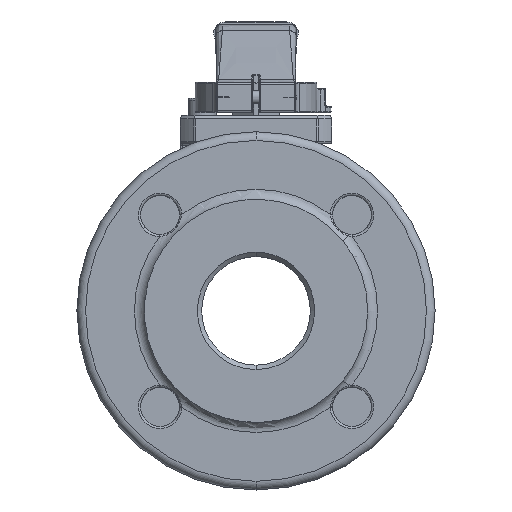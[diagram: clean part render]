
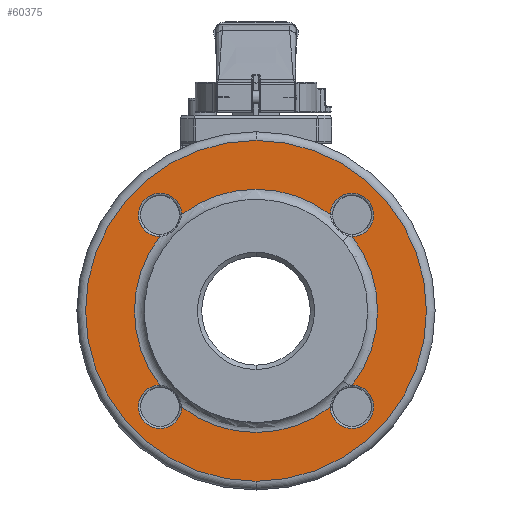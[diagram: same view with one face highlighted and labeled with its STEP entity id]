
A CAD part, left-side view. The second image highlights one B-rep face of the part: STEP entity #60375.
In plain terms, the highlighted planar face has unit normal (-1, 0, 0).
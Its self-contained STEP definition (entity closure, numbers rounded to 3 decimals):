
#647=CARTESIAN_POINT('',(-57.,0.,0.));
#648=DIRECTION('',(1.,0.,0.));
#649=DIRECTION('',(0.,-0.611,-0.792));
#650=AXIS2_PLACEMENT_3D('',#647,#648,#649);
#652=CARTESIAN_POINT('',(-57.,0.,0.));
#653=DIRECTION('',(-1.,0.,0.));
#654=DIRECTION('',(0.,0.792,0.611));
#655=AXIS2_PLACEMENT_3D('',#652,#653,#654);
#657=CARTESIAN_POINT('',(-57.,0.,0.));
#658=DIRECTION('',(1.,0.,0.));
#659=DIRECTION('',(0.,0.611,0.792));
#660=AXIS2_PLACEMENT_3D('',#657,#658,#659);
#667=CARTESIAN_POINT('',(-57.,0.,0.));
#668=DIRECTION('',(-1.,0.,0.));
#669=DIRECTION('',(0.,-0.792,-0.611));
#670=AXIS2_PLACEMENT_3D('',#667,#668,#669);
#677=CARTESIAN_POINT('',(-57.,-44.347,34.195));
#783=CARTESIAN_POINT('',(-57.,-34.195,44.347));
#797=CARTESIAN_POINT('',(-57.,-44.194,44.194));
#798=DIRECTION('',(1.,0.,0.));
#799=DIRECTION('',(0.,1.,0.015));
#800=AXIS2_PLACEMENT_3D('',#797,#798,#799);
#822=CARTESIAN_POINT('',(-57.,0.,0.));
#823=DIRECTION('',(1.,0.,0.));
#824=DIRECTION('',(0.,0.,-1.));
#825=AXIS2_PLACEMENT_3D('',#822,#823,#824);
#845=CARTESIAN_POINT('',(-57.,0.,0.));
#846=DIRECTION('',(1.,0.,0.));
#847=DIRECTION('',(0.,0.,1.));
#848=AXIS2_PLACEMENT_3D('',#845,#846,#847);
#48237=CARTESIAN_POINT('',(-57.,44.347,
34.195));
#48301=CARTESIAN_POINT('',(-57.,44.194,44.194));
#48302=DIRECTION('',(1.,0.,0.));
#48303=DIRECTION('',(0.,0.015,-1.));
#48304=AXIS2_PLACEMENT_3D('',#48301,#48302,#48303);
#48310=CARTESIAN_POINT('',(-57.,34.195,
44.347));
#48378=CARTESIAN_POINT('',(-57.,-44.194,-44.194));
#48379=DIRECTION('',(1.,0.,0.));
#48380=DIRECTION('',(0.,-0.015,1.));
#48381=AXIS2_PLACEMENT_3D('',#48378,#48379,#48380);
#48394=CARTESIAN_POINT('',(-57.,-44.347,
-34.195));
#48488=CARTESIAN_POINT('',(-57.,-34.195,
-44.347));
#48546=CARTESIAN_POINT('',(-57.,34.195,
-44.347));
#48560=CARTESIAN_POINT('',(-57.,44.194,-44.194));
#48561=DIRECTION('',(1.,0.,0.));
#48562=DIRECTION('',(0.,-1.,-0.015));
#48563=AXIS2_PLACEMENT_3D('',#48560,#48561,#48562);
#48580=CARTESIAN_POINT('',(-57.,44.347,
-34.195));
#48688=CARTESIAN_POINT('',(-57.,0.,-78.5));
#48689=CARTESIAN_POINT('',(-57.,0.,78.5));
#48690=VERTEX_POINT('',#48688);
#48691=VERTEX_POINT('',#48689);
#48709=VERTEX_POINT('',#677);
#48714=VERTEX_POINT('',#783);
#48716=VERTEX_POINT('',#48310);
#48720=VERTEX_POINT('',#48237);
#48728=VERTEX_POINT('',#48580);
#48731=VERTEX_POINT('',#48546);
#48734=VERTEX_POINT('',#48394);
#48741=VERTEX_POINT('',#48488);
#60351=CARTESIAN_POINT('',(-57.,0.,0.));
#60352=DIRECTION('',(-1.,0.,0.));
#60353=DIRECTION('',(0.,0.,1.));
#60354=AXIS2_PLACEMENT_3D('',#60351,#60352,#60353);
#60355=PLANE('',#60354);
#60357=ORIENTED_EDGE('',*,*,#60356,.T.);
#60359=ORIENTED_EDGE('',*,*,#60358,.T.);
#60360=EDGE_LOOP('',(#60357,#60359));
#60361=FACE_OUTER_BOUND('',#60360,.F.);
#60362=ORIENTED_EDGE('',*,*,#60340,.F.);
#60363=ORIENTED_EDGE('',*,*,#60064,.F.);
#60365=ORIENTED_EDGE('',*,*,#60364,.F.);
#60366=ORIENTED_EDGE('',*,*,#60058,.T.);
#60368=ORIENTED_EDGE('',*,*,#60367,.F.);
#60369=ORIENTED_EDGE('',*,*,#60052,.F.);
#60371=ORIENTED_EDGE('',*,*,#60370,.F.);
#60372=ORIENTED_EDGE('',*,*,#60084,.T.);
#60373=EDGE_LOOP('',(#60362,#60363,#60365,#60366,#60368,#60369,#60371,#60372));
#60374=FACE_BOUND('',#60373,.F.);
#60375=ADVANCED_FACE('',(#60361,#60374),#60355,.T.);
#651=CIRCLE('',#650,56.);
#656=CIRCLE('',#655,56.);
#661=CIRCLE('',#660,56.);
#671=CIRCLE('',#670,56.);
#801=CIRCLE('',#800,10.);
#826=CIRCLE('',#825,78.5);
#849=CIRCLE('',#848,78.5);
#48305=CIRCLE('',#48304,10.);
#48382=CIRCLE('',#48381,10.);
#48564=CIRCLE('',#48563,10.);
#60052=EDGE_CURVE('',#48741,#48731,#651,.T.);
#60058=EDGE_CURVE('',#48720,#48728,#656,.T.);
#60064=EDGE_CURVE('',#48716,#48714,#661,.T.);
#60084=EDGE_CURVE('',#48734,#48709,#671,.T.);
#60340=EDGE_CURVE('',#48714,#48709,#801,.T.);
#60356=EDGE_CURVE('',#48690,#48691,#826,.T.);
#60358=EDGE_CURVE('',#48691,#48690,#849,.T.);
#60364=EDGE_CURVE('',#48720,#48716,#48305,.T.);
#60367=EDGE_CURVE('',#48731,#48728,#48564,.T.);
#60370=EDGE_CURVE('',#48734,#48741,#48382,.T.);
